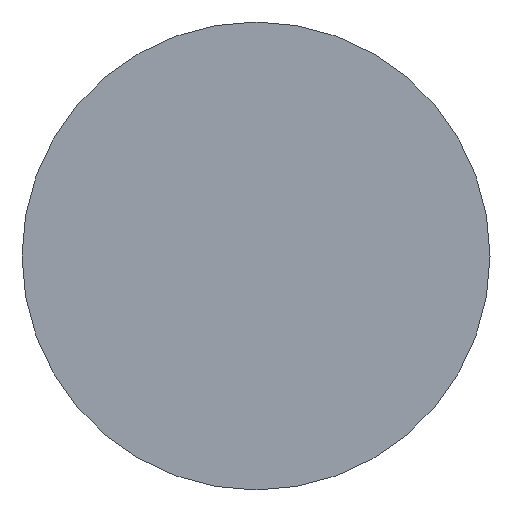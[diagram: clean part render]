
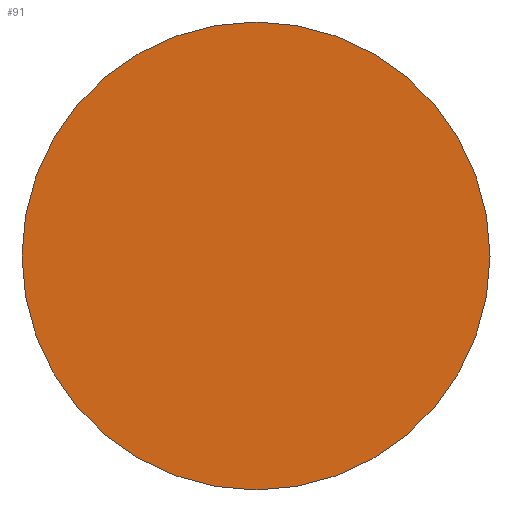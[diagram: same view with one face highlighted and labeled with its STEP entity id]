
A CAD part, left-side view. The second image highlights one B-rep face of the part: STEP entity #91.
In plain terms, the highlighted planar face has unit normal (-1, 0, 0).
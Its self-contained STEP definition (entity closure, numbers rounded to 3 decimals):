
#52=CARTESIAN_POINT('Axis2P3D Location',(0.,0.,0.)) ;
#57=CARTESIAN_POINT('Axis2P3D Location',(0.,0.,0.)) ;
#61=CARTESIAN_POINT('Vertex',(0.,0.,-32.5)) ;
#63=CARTESIAN_POINT('Vertex',(0.,32.5,0.)) ;
#66=CARTESIAN_POINT('Axis2P3D Location',(0.,0.,0.)) ;
#70=CARTESIAN_POINT('Vertex',(0.,-32.5,0.)) ;
#73=CARTESIAN_POINT('Axis2P3D Location',(0.,0.,0.)) ;
#77=CARTESIAN_POINT('Vertex',(0.,0.,32.5)) ;
#80=CARTESIAN_POINT('Axis2P3D Location',(0.,0.,0.)) ;
#53=DIRECTION('Axis2P3D Direction',(1.,0.,-0.)) ;
#54=DIRECTION('Axis2P3D XDirection',(-0.,0.,-1.)) ;
#58=DIRECTION('Axis2P3D Direction',(1.,0.,-0.)) ;
#67=DIRECTION('Axis2P3D Direction',(1.,0.,-0.)) ;
#74=DIRECTION('Axis2P3D Direction',(1.,0.,-0.)) ;
#81=DIRECTION('Axis2P3D Direction',(1.,0.,-0.)) ;
#55=AXIS2_PLACEMENT_3D('Plane Axis2P3D',#52,#53,#54) ;
#59=AXIS2_PLACEMENT_3D('Circle Axis2P3D',#57,#58,$) ;
#68=AXIS2_PLACEMENT_3D('Circle Axis2P3D',#66,#67,$) ;
#75=AXIS2_PLACEMENT_3D('Circle Axis2P3D',#73,#74,$) ;
#82=AXIS2_PLACEMENT_3D('Circle Axis2P3D',#80,#81,$) ;
#86=ORIENTED_EDGE('',*,*,#65,.F.) ;
#87=ORIENTED_EDGE('',*,*,#72,.F.) ;
#88=ORIENTED_EDGE('',*,*,#79,.F.) ;
#89=ORIENTED_EDGE('',*,*,#84,.F.) ;
#91=ADVANCED_FACE('Brep With Voids',(#90),#56,.F.) ;
#60=CIRCLE('generated circle',#59,32.5) ;
#69=CIRCLE('generated circle',#68,32.5) ;
#76=CIRCLE('generated circle',#75,32.5) ;
#83=CIRCLE('generated circle',#82,32.5) ;
#65=EDGE_CURVE('',#62,#64,#60,.T.) ;
#72=EDGE_CURVE('',#71,#62,#69,.T.) ;
#79=EDGE_CURVE('',#78,#71,#76,.T.) ;
#84=EDGE_CURVE('',#64,#78,#83,.T.) ;
#85=EDGE_LOOP('',(#86,#87,#88,#89)) ;
#90=FACE_OUTER_BOUND('',#85,.T.) ;
#56=PLANE('Plane',#55) ;
#62=VERTEX_POINT('',#61) ;
#64=VERTEX_POINT('',#63) ;
#71=VERTEX_POINT('',#70) ;
#78=VERTEX_POINT('',#77) ;
